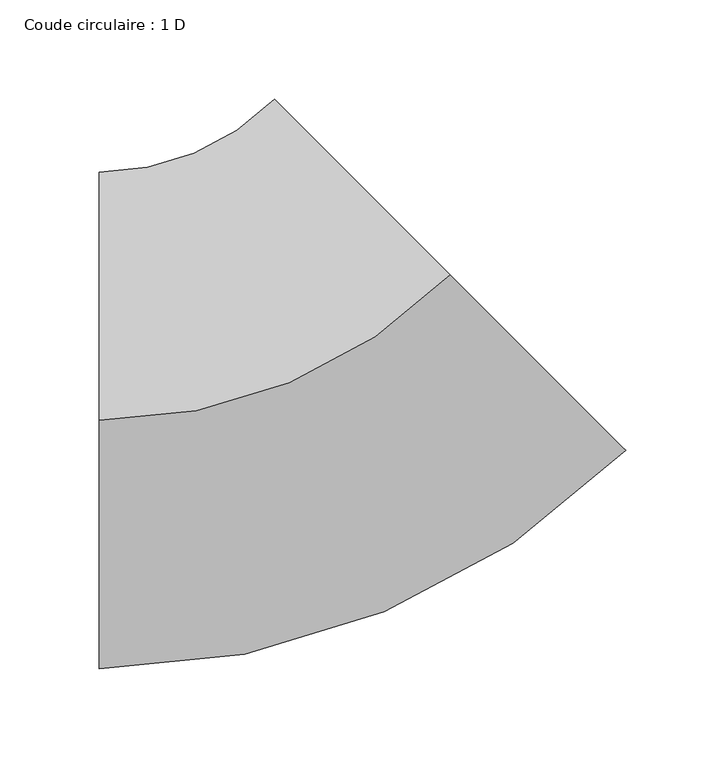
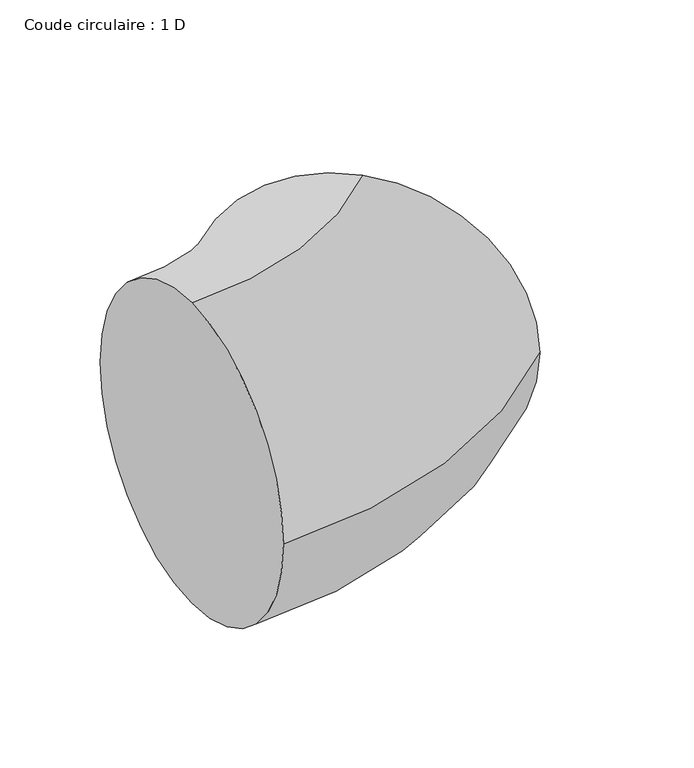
"""IFC4 building model written with IfcOpenShell, lengths in millimetres: duct fitting geometry, Coude circulaire : 1 D."""

from ifc_helpers import new_model, si_unit, point, frame, origin, place, context, project, spatial, circle_curve, ellipse_curve, trimmed, source, transform, mapped, element, save
from ifc_brep_helpers import plane_surface, revolved_surface, advanced_brep


def coude_circulaire_1_d_eb37eb53(model_context):
    return source(origin(), model_context, "Body", "AdvancedBrep", [
        advanced_brep(
        [(-103.5533906, 0.0, 125.0), (-103.5533906, 125.0, 0.0), (-103.5533906, 0.0, -125.0), (-103.5533906, -125.0, 0.0), (73.2233047, 73.2233047, 125.0), (161.6116524, -15.1650429, 0.0), (73.2233047, 73.2233047, -125.0), (-15.1650429, 161.6116524, 0.0)],
        [
            (0, 1, circle_curve(frame((-103.5533906, 0.0, 0.0), z_axis=(-1.0, 0.0, 0.0), x_axis=(0.0, 1.0, 0.0)), 125.0)),
            (1, 2, circle_curve(frame((-103.5533906, 0.0, 0.0), z_axis=(-1.0, 0.0, 0.0), x_axis=(0.0, 1.0, 0.0)), 125.0)),
            (2, 3, circle_curve(frame((-103.5533906, 0.0, 0.0), z_axis=(-1.0, 0.0, 0.0), x_axis=(0.0, 1.0, 0.0)), 125.0)),
            (3, 0, circle_curve(frame((-103.5533906, 0.0, 0.0), z_axis=(-1.0, 0.0, 0.0), x_axis=(0.0, 1.0, 0.0)), 125.0)),
            (4, 5, circle_curve(frame((73.2233047, 73.2233047, 0.0), z_axis=(0.7071067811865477, 0.7071067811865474, 0.0), x_axis=(-0.7071067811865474, 0.7071067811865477, 0.0)), 125.0)),
            (5, 6, circle_curve(frame((73.2233047, 73.2233047, 0.0), z_axis=(0.7071067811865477, 0.7071067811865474, 0.0), x_axis=(-0.7071067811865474, 0.7071067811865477, 0.0)), 125.0)),
            (6, 7, circle_curve(frame((73.2233047, 73.2233047, 0.0), z_axis=(0.7071067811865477, 0.7071067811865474, 0.0), x_axis=(-0.7071067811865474, 0.7071067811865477, 0.0)), 125.0)),
            (7, 4, circle_curve(frame((73.2233047, 73.2233047, 0.0), z_axis=(0.7071067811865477, 0.7071067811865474, 0.0), x_axis=(-0.7071067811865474, 0.7071067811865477, 0.0)), 125.0)),
            (7, 1, circle_curve(frame((-103.5533906, 250.0, 0.0), z_axis=(0.0, 0.0, -1.0), x_axis=(0.0, -1.0, 0.0)), 125.0)),
            (0, 4, circle_curve(frame((-103.5533906, 250.0, 125.0), z_axis=(0.0, 0.0, 1.0), x_axis=(0.0, -1.0, 0.0)), 250.0)),
            (6, 2, circle_curve(frame((-103.5533906, 250.0, -125.0), z_axis=(0.0, 0.0, -1.0), x_axis=(0.0, -1.0, 0.0)), 250.0)),
            (5, 3, circle_curve(frame((-103.5533906, 250.0, 0.0), z_axis=(0.0, 0.0, -1.0), x_axis=(0.0, -1.0, 0.0)), 375.0)),
        ],
        [
            plane_surface(frame((-103.5533906, 0.0, 0.0), z_axis=(-1.0, 0.0, 0.0), x_axis=(0.0, 0.0, 1.0))),
            plane_surface(frame((73.2233047, 73.2233047, 0.0), z_axis=(0.7071067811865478, 0.7071067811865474, 0.0), x_axis=(0.0, 0.0, 1.0))),
            revolved_surface(trimmed(ellipse_curve(frame((-103.5533906, 0.0, 0.0), z_axis=(-1.0, 0.0, 0.0), x_axis=(0.0, 1.0, 0.0)), 125.0, 125.0), [point((-103.5533906, 0.0, 125.0))], [point((-103.5533906, 125.0, 0.0))], True, "CARTESIAN"), (-103.5533906, 250.0, 0.0), (0.0, 0.0, 1.0)),
            revolved_surface(trimmed(ellipse_curve(frame((-103.5533906, 0.0, 0.0), z_axis=(-1.0, 0.0, 0.0), x_axis=(0.0, 1.0, 0.0)), 125.0, 125.0), [point((-103.5533906, 125.0, 0.0))], [point((-103.5533906, 0.0, -125.0))], True, "CARTESIAN"), (-103.5533906, 250.0, 0.0), (0.0, 0.0, 1.0)),
            revolved_surface(trimmed(ellipse_curve(frame((-103.5533906, 0.0, 0.0), z_axis=(-1.0, 0.0, 0.0), x_axis=(0.0, 1.0, 0.0)), 125.0, 125.0), [point((-103.5533906, 0.0, -125.0))], [point((-103.5533906, -125.0, 0.0))], True, "CARTESIAN"), (-103.5533906, 250.0, 0.0), (0.0, 0.0, 1.0)),
            revolved_surface(trimmed(ellipse_curve(frame((-103.5533906, 0.0, 0.0), z_axis=(-1.0, 0.0, 0.0), x_axis=(0.0, 1.0, 0.0)), 125.0, 125.0), [point((-103.5533906, -125.0, 0.0))], [point((-103.5533906, 0.0, 125.0))], True, "CARTESIAN"), (-103.5533906, 250.0, 0.0), (0.0, 0.0, 1.0)),
        ],
        [
            (0, [[1, 2, 3, 4]]),
            (1, [[5, 6, 7, 8]]),
            (2, [[9, -1, 10, -8]]),
            (3, [[11, -2, -9, -7]]),
            (4, [[12, -3, -11, -6]]),
            (5, [[-10, -4, -12, -5]]),
        ],
    ),
    ])


if __name__ == "__main__":
    model = new_model("IFC4")
    model_context = context("Model", 3, world=origin())
    ifc_project = project(units=[si_unit("LENGTHUNIT", "METRE", prefix="MILLI")], contexts=[model_context])
    site = spatial("IfcSite", under=ifc_project)
    building = spatial("IfcBuilding", under=site)
    placement = place(None, origin())
    coude_circulaire_1_d_shape = coude_circulaire_1_d_eb37eb53(model_context)
    element("IfcDuctFitting", 1, ObjectType="Coude circulaire : 1 D", at=placement, inside=building, context=model_context, shape_type="MappedRepresentation", body=[
        mapped(coude_circulaire_1_d_shape, transform((0.0, 0.0, 0.0), x_axis=(1.0, 0.0, 0.0), y_axis=(0.0, 1.0, 0.0), z_axis=(0.0, 0.0, 1.0))),
    ])
    save(model, "model.ifc")
